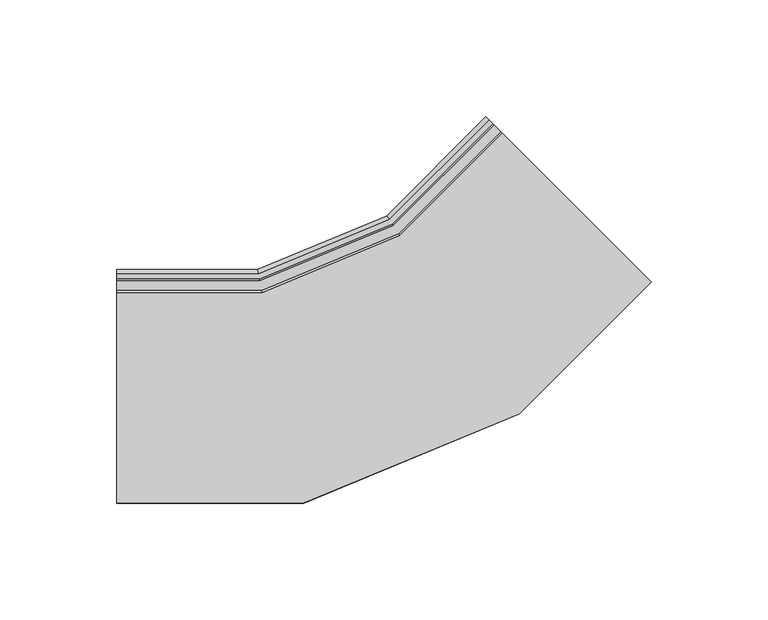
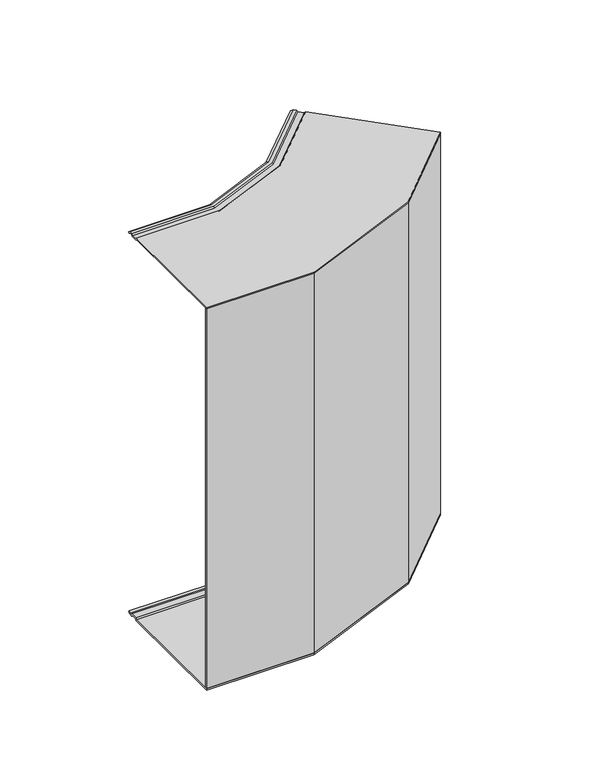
"""IFC4 building model written with IfcOpenShell, lengths in millimetres: cable carrier fitting geometry, CCERC45_Vertical_Inside_Bend-Basortray : Basortray CCERC45-GS."""

from ifc_helpers import new_model, si_unit, origin, origin_with_axes, place, context, project, spatial, polyline, outline, extrude, faceted_brep, source, transform, mapped, element, save


def cable_carrier_fitting_c11d5971(model_context):
    return source(origin(), model_context, "Body", "SolidModel", [
        faceted_brep([(-204.0, -100.0, 1.0), (-204.0, -10.4142136, 1.0), (-204.0, -9.4506949, 1.9635186), (-204.0, -4.6054955, 1.9635186), (-204.0, -3.6419769, 1.0), (-204.0, -2.1747094, 1.0), (-204.0, -0.4448072, 1.859145), (-204.0, 0.0, 0.9635186), (-204.0, -1.9400602, 0.0), (-204.0, -4.0561905, 0.0), (-204.0, -5.0197091, 0.9635186), (-204.0, -9.0364814, 0.9635186), (-204.0, -10.0, 0.0), (-204.0, -100.0, 0.0), (-124.1087633, -100.0, 0.0), (-124.1087633, -100.0, 1.0), (-31.9217783, -61.8149006, 0.0), (-31.9217783, -61.8149006, 1.0), (24.5698569, -5.3232653, 1.0), (24.5698569, -5.3232653, 0.0), (-39.0697534, 58.316345, 0.0), (-39.7510639, 58.9976556, 0.9635186), (-42.5913508, 61.8379425, 0.9635186), (-43.2726614, 62.519253, 0.0), (-44.7689914, 64.0155831, 0.0), (-46.1408212, 65.3874128, 0.9635186), (-45.826295, 65.0728866, 1.859145), (-44.6030694, 63.8496611, 1.0), (-43.5655546, 62.8121463, 1.0), (-42.8842441, 62.1308357, 1.9635186), (-39.4581707, 58.7047623, 1.9635186), (-38.7768601, 58.0234518, 1.0), (-82.6680499, 14.132262, 1.0), (-141.9284841, -10.4142136, 1.0), (-142.1201399, -9.4506949, 1.9635186), (-83.2138394, 14.9490937, 1.9635186), (-85.9584244, 19.0566553, 1.9635186), (-143.08391, -4.6054955, 1.9635186), (-143.2755658, -3.6419769, 1.0), (-86.5042139, 19.873487, 1.0), (-87.3353541, 21.1173763, 1.0), (-143.5674234, -2.1747094, 1.0), (-143.9115224, -0.4448072, 1.859145), (-144.0, 0.0, 0.9635186), (-143.614098, -1.9400602, 0.0), (-87.4682722, 21.3163023, 0.0), (-86.2695807, 19.5223337, 0.0), (-143.1931736, -4.0561905, 0.0), (-143.0015178, -5.0197091, 0.9635186), (-85.7237913, 18.705502, 0.9635186), (-83.4484725, 15.300247, 0.9635186), (-142.2025321, -9.0364814, 0.9635186), (-142.0108763, -10.0, 0.0), (-82.9026831, 14.4834153, 0.0), (-88.315265, 22.5839166, 1.859145), (-88.567228, 22.9610059, 0.9635186)], [[[0, 1, 2, 3, 4, 5, 6, 7, 8, 9, 10, 11, 12, 13]], [[0, 13, 14, 15]], [[15, 14, 16, 17]], [[18, 19, 20, 21, 22, 23, 24, 25, 26, 27, 28, 29, 30, 31]], [[17, 16, 19, 18]], [[1, 0, 15, 17, 18, 31, 32, 33]], [[2, 1, 33, 34]], [[3, 2, 34, 35, 30, 29, 36, 37]], [[4, 3, 37, 38]], [[5, 4, 38, 39, 28, 27, 40, 41]], [[6, 5, 41, 42]], [[7, 6, 42, 43]], [[8, 7, 43, 44]], [[9, 8, 44, 45, 24, 23, 46, 47]], [[10, 9, 47, 48]], [[11, 10, 48, 49, 22, 21, 50, 51]], [[12, 11, 51, 52]], [[13, 12, 52, 53, 20, 19, 16, 14]], [[34, 33, 32, 35]], [[38, 37, 36, 39]], [[42, 41, 40, 54]], [[43, 42, 54, 55]], [[44, 43, 55, 45]], [[48, 47, 46, 49]], [[52, 51, 50, 53]], [[35, 32, 31, 30]], [[39, 36, 29, 28]], [[54, 40, 27, 26]], [[55, 54, 26, 25]], [[45, 55, 25, 24]], [[49, 46, 23, 22]], [[53, 50, 21, 20]]]),
        faceted_brep([(-204.0, -100.0, 299.0), (-204.0, -100.0, 300.0), (-204.0, -10.0, 300.0), (-204.0, -9.0364814, 299.0364814), (-204.0, -5.0197091, 299.0364814), (-204.0, -4.0561905, 300.0), (-204.0, -1.9400602, 300.0), (-204.0, 0.0, 299.0364814), (-204.0, -0.4448072, 298.140855), (-204.0, -2.1747094, 299.0), (-204.0, -3.6419769, 299.0), (-204.0, -4.6054955, 298.0364814), (-204.0, -9.4506949, 298.0364814), (-204.0, -10.4142136, 299.0), (24.5698569, -5.3232653, 299.0), (-38.7768601, 58.0234518, 299.0), (-39.4581707, 58.7047623, 298.0364814), (-42.8842441, 62.1308357, 298.0364814), (-43.5655546, 62.8121463, 299.0), (-44.6030694, 63.8496611, 299.0), (-45.826295, 65.0728866, 298.140855), (-46.1408212, 65.3874128, 299.0364814), (-44.7689914, 64.0155831, 300.0), (-43.2726614, 62.519253, 300.0), (-42.5913508, 61.8379425, 299.0364814), (-39.7510639, 58.9976556, 299.0364814), (-39.0697534, 58.316345, 300.0), (24.5698569, -5.3232653, 300.0), (-124.1087633, -100.0, 299.0), (-124.1087633, -100.0, 300.0), (-31.9217783, -61.8149006, 300.0), (-82.9026831, 14.4834153, 300.0), (-142.0108763, -10.0, 300.0), (-142.2025321, -9.0364814, 299.0364814), (-83.4484725, 15.300247, 299.0364814), (-85.7237913, 18.705502, 299.0364814), (-143.0015178, -5.0197091, 299.0364814), (-143.1931736, -4.0561905, 300.0), (-86.2695807, 19.5223337, 300.0), (-87.4682722, 21.3163023, 300.0), (-143.614098, -1.9400602, 300.0), (-144.0, 0.0, 299.0364814), (-143.9115224, -0.4448072, 298.140855), (-143.5674234, -2.1747094, 299.0), (-87.3353541, 21.1173763, 299.0), (-86.5042139, 19.873487, 299.0), (-143.2755658, -3.6419769, 299.0), (-143.08391, -4.6054955, 298.0364814), (-85.9584244, 19.0566553, 298.0364814), (-83.2138394, 14.9490937, 298.0364814), (-142.1201399, -9.4506949, 298.0364814), (-141.9284841, -10.4142136, 299.0), (-82.6680499, 14.132262, 299.0), (-31.9217783, -61.8149006, 299.0), (-88.567228, 22.9610059, 299.0364814), (-88.315265, 22.5839166, 298.140855)], [[[0, 1, 2, 3, 4, 5, 6, 7, 8, 9, 10, 11, 12, 13]], [[14, 15, 16, 17, 18, 19, 20, 21, 22, 23, 24, 25, 26, 27]], [[1, 0, 28, 29]], [[2, 1, 29, 30, 27, 26, 31, 32]], [[3, 2, 32, 33]], [[4, 3, 33, 34, 25, 24, 35, 36]], [[5, 4, 36, 37]], [[6, 5, 37, 38, 23, 22, 39, 40]], [[7, 6, 40, 41]], [[8, 7, 41, 42]], [[9, 8, 42, 43]], [[10, 9, 43, 44, 19, 18, 45, 46]], [[11, 10, 46, 47]], [[12, 11, 47, 48, 17, 16, 49, 50]], [[13, 12, 50, 51]], [[0, 13, 51, 52, 15, 14, 53, 28]], [[29, 28, 53, 30]], [[33, 32, 31, 34]], [[37, 36, 35, 38]], [[41, 40, 39, 54]], [[42, 41, 54, 55]], [[43, 42, 55, 44]], [[47, 46, 45, 48]], [[51, 50, 49, 52]], [[30, 53, 14, 27]], [[34, 31, 26, 25]], [[38, 35, 24, 23]], [[54, 39, 22, 21]], [[55, 54, 21, 20]], [[44, 55, 20, 19]], [[48, 45, 18, 17]], [[52, 49, 16, 15]]]),
        extrude(outline(polyline([(-204.0, -100.0), (-204.0, -99.0), (-124.3076756, -99.0), (-32.4882328, -60.9671415), (23.8627502, -4.6161585), (24.5698569, -5.3232653), (-31.9217783, -61.8149006), (-124.1087633, -100.0), (-204.0, -100.0)])), origin_with_axes(), (0.0, 0.0, 1.0), 300.0),
    ])


if __name__ == "__main__":
    model = new_model("IFC4")
    model_context = context("Model", 3, world=origin())
    ifc_project = project(units=[si_unit("LENGTHUNIT", "METRE", prefix="MILLI")], contexts=[model_context])
    site = spatial("IfcSite", under=ifc_project)
    building = spatial("IfcBuilding", under=site)
    placement = place(None, origin())
    cable_carrier_fitting_shape = cable_carrier_fitting_c11d5971(model_context)
    element("IfcCableCarrierFitting", 1, ObjectType="CCERC45_Vertical_Inside_Bend-Basortray : Basortray CCERC45-GS", at=placement, inside=building, context=model_context, shape_type="MappedRepresentation", body=[
        mapped(cable_carrier_fitting_shape, transform((0.0, 0.0, 0.0), x_axis=(1.0, 0.0, 0.0), y_axis=(0.0, 1.0, 0.0), z_axis=(0.0, 0.0, 1.0))),
    ])
    save(model, "model.ifc")
